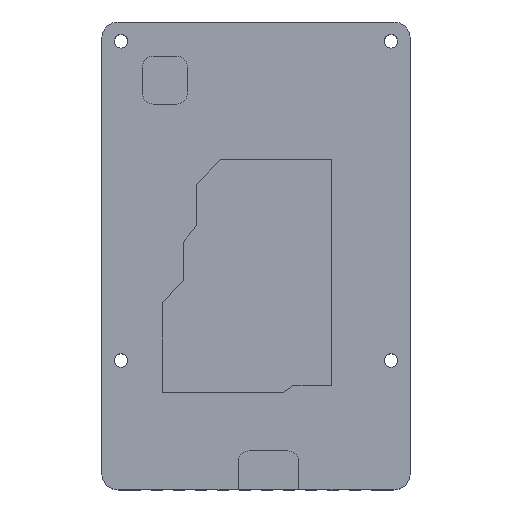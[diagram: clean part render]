
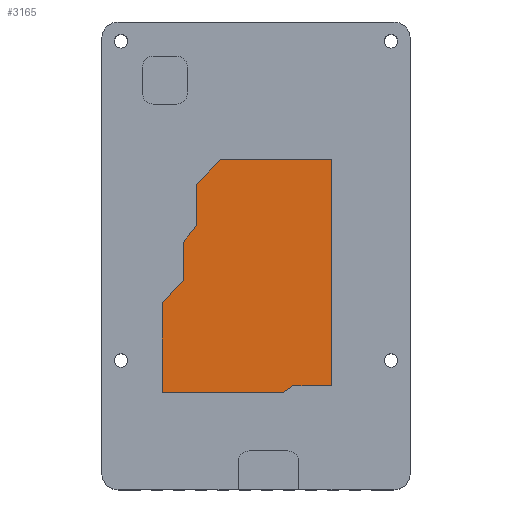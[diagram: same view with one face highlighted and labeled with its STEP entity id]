
A CAD part, top view. The second image highlights one B-rep face of the part: STEP entity #3165.
In plain terms, the highlighted planar face has unit normal (0, 0, 1).
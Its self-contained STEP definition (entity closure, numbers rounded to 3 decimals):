
#1109=DIRECTION('',(-0.689,-0.725,0.));
#1110=VECTOR('',#1109,6.221);
#1111=CARTESIAN_POINT('',(345.855,310.989,0.));
#1112=LINE('',#1111,#1110);
#1121=DIRECTION('',(-1.,0.,0.));
#1122=VECTOR('',#1121,20.215);
#1123=CARTESIAN_POINT('',(366.07,310.989,0.));
#1124=LINE('',#1123,#1122);
#1125=DIRECTION('',(0.,1.,0.));
#1126=VECTOR('',#1125,41.1);
#1127=CARTESIAN_POINT('',(366.07,269.889,0.));
#1128=LINE('',#1127,#1126);
#1129=DIRECTION('',(1.,0.,0.));
#1130=VECTOR('',#1129,7.);
#1131=CARTESIAN_POINT('',(359.07,269.889,0.));
#1132=LINE('',#1131,#1130);
#1133=DIRECTION('',(0.817,0.577,0.));
#1134=VECTOR('',#1133,2.081);
#1135=CARTESIAN_POINT('',(357.37,268.689,0.));
#1136=LINE('',#1135,#1134);
#1137=DIRECTION('',(1.,0.,0.));
#1138=VECTOR('',#1137,22.);
#1139=CARTESIAN_POINT('',(335.37,268.689,0.));
#1140=LINE('',#1139,#1138);
#1141=DIRECTION('',(0.,-1.,0.));
#1142=VECTOR('',#1141,16.3);
#1143=CARTESIAN_POINT('',(335.37,284.989,0.));
#1144=LINE('',#1143,#1142);
#1145=DIRECTION('',(-0.689,-0.725,0.));
#1146=VECTOR('',#1145,5.517);
#1147=CARTESIAN_POINT('',(339.17,288.989,0.));
#1148=LINE('',#1147,#1146);
#1149=DIRECTION('',(0.,-1.,0.));
#1150=VECTOR('',#1149,7.);
#1151=CARTESIAN_POINT('',(339.17,295.989,0.));
#1152=LINE('',#1151,#1150);
#1153=DIRECTION('',(-0.625,-0.781,0.));
#1154=VECTOR('',#1153,3.842);
#1155=CARTESIAN_POINT('',(341.57,298.989,0.));
#1156=LINE('',#1155,#1154);
#1157=DIRECTION('',(0.,-1.,0.));
#1158=VECTOR('',#1157,7.489);
#1159=CARTESIAN_POINT('',(341.57,306.478,0.));
#1160=LINE('',#1159,#1158);
#1401=CARTESIAN_POINT('',(359.07,269.889,0.));
#1402=CARTESIAN_POINT('',(366.07,269.889,0.));
#1403=VERTEX_POINT('',#1401);
#1404=VERTEX_POINT('',#1402);
#1405=CARTESIAN_POINT('',(366.07,310.989,0.));
#1406=VERTEX_POINT('',#1405);
#1407=CARTESIAN_POINT('',(345.855,310.989,0.));
#1408=VERTEX_POINT('',#1407);
#1409=CARTESIAN_POINT('',(341.57,306.478,0.));
#1410=CARTESIAN_POINT('',(341.57,298.989,0.));
#1411=VERTEX_POINT('',#1409);
#1412=VERTEX_POINT('',#1410);
#1413=CARTESIAN_POINT('',(339.17,295.989,0.));
#1414=VERTEX_POINT('',#1413);
#1415=CARTESIAN_POINT('',(339.17,288.989,0.));
#1416=VERTEX_POINT('',#1415);
#1417=CARTESIAN_POINT('',(335.37,284.989,0.));
#1418=VERTEX_POINT('',#1417);
#1419=CARTESIAN_POINT('',(335.37,268.689,0.));
#1420=VERTEX_POINT('',#1419);
#1421=CARTESIAN_POINT('',(357.37,268.689,0.));
#1422=VERTEX_POINT('',#1421);
#3147=CARTESIAN_POINT('',(860.739,0.,0.));
#3148=DIRECTION('',(0.,0.,-1.));
#3149=DIRECTION('',(-1.,0.,0.));
#3150=AXIS2_PLACEMENT_3D('',#3147,#3148,#3149);
#3151=PLANE('',#3150);
#3152=ORIENTED_EDGE('',*,*,#3114,.F.);
#3153=ORIENTED_EDGE('',*,*,#3128,.F.);
#3154=ORIENTED_EDGE('',*,*,#3141,.F.);
#3155=ORIENTED_EDGE('',*,*,#3001,.F.);
#3156=ORIENTED_EDGE('',*,*,#3016,.F.);
#3157=ORIENTED_EDGE('',*,*,#3030,.F.);
#3158=ORIENTED_EDGE('',*,*,#3044,.F.);
#3159=ORIENTED_EDGE('',*,*,#3058,.F.);
#3160=ORIENTED_EDGE('',*,*,#3072,.F.);
#3161=ORIENTED_EDGE('',*,*,#3086,.F.);
#3162=ORIENTED_EDGE('',*,*,#3100,.F.);
#3163=EDGE_LOOP('',(#3152,#3153,#3154,#3155,#3156,#3157,#3158,#3159,#3160,#3161,
#3162));
#3164=FACE_OUTER_BOUND('',#3163,.F.);
#3001=EDGE_CURVE('',#1403,#1404,#1132,.T.);
#3016=EDGE_CURVE('',#1422,#1403,#1136,.T.);
#3030=EDGE_CURVE('',#1420,#1422,#1140,.T.);
#3044=EDGE_CURVE('',#1418,#1420,#1144,.T.);
#3058=EDGE_CURVE('',#1416,#1418,#1148,.T.);
#3072=EDGE_CURVE('',#1414,#1416,#1152,.T.);
#3086=EDGE_CURVE('',#1412,#1414,#1156,.T.);
#3100=EDGE_CURVE('',#1411,#1412,#1160,.T.);
#3114=EDGE_CURVE('',#1408,#1411,#1112,.T.);
#3128=EDGE_CURVE('',#1406,#1408,#1124,.T.);
#3141=EDGE_CURVE('',#1404,#1406,#1128,.T.);
#3165=ADVANCED_FACE('',(#3164),#3151,.F.);
